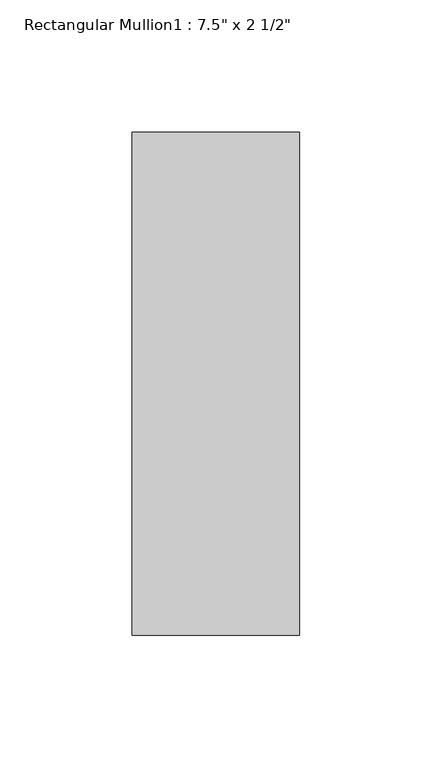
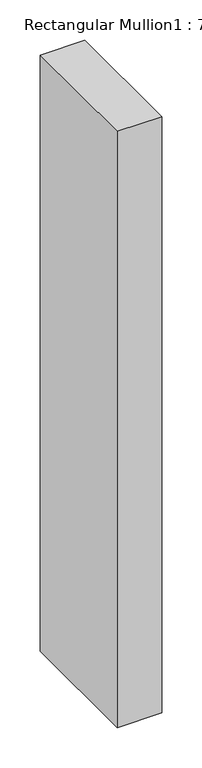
"""IFC4 building model written with IfcOpenShell, lengths in millimetres: member geometry."""

from ifc_helpers import new_model, si_unit, frame, origin, place, context, project, spatial, polyline, outline, extrude, source, transform, mapped, element, save


def member_8f0f33f4(model_context):
    return source(origin(), model_context, "Body", "SweptSolid", [
        extrude(outline(polyline([(0.0, 165.1), (0.0, -25.4), (-63.5, -25.4), (-63.5, 165.1), (0.0, 165.1)])), frame((0.0, 0.0, -901.6904075), z_axis=(0.0, 0.0, 1.0), x_axis=(1.0, 0.0, 0.0)), (0.0, 0.0, 1.0), 901.6904075),
    ])


if __name__ == "__main__":
    model = new_model("IFC4")
    model_context = context("Model", 3, world=origin())
    ifc_project = project(units=[si_unit("LENGTHUNIT", "METRE", prefix="MILLI")], contexts=[model_context])
    site = spatial("IfcSite", under=ifc_project)
    building = spatial("IfcBuilding", under=site)
    placement = place(None, origin())
    member_shape = member_8f0f33f4(model_context)
    element("IfcMember", 1, ObjectType="Rectangular Mullion1 : 7.5\" x 2 1/2\"", at=placement, inside=building, context=model_context, shape_type="MappedRepresentation", body=[
        mapped(member_shape, transform((0.0, 0.0, 0.0), x_axis=(1.0, 0.0, 0.0), y_axis=(0.0, 1.0, 0.0), z_axis=(0.0, 0.0, 1.0))),
    ])
    save(model, "model.ifc")
